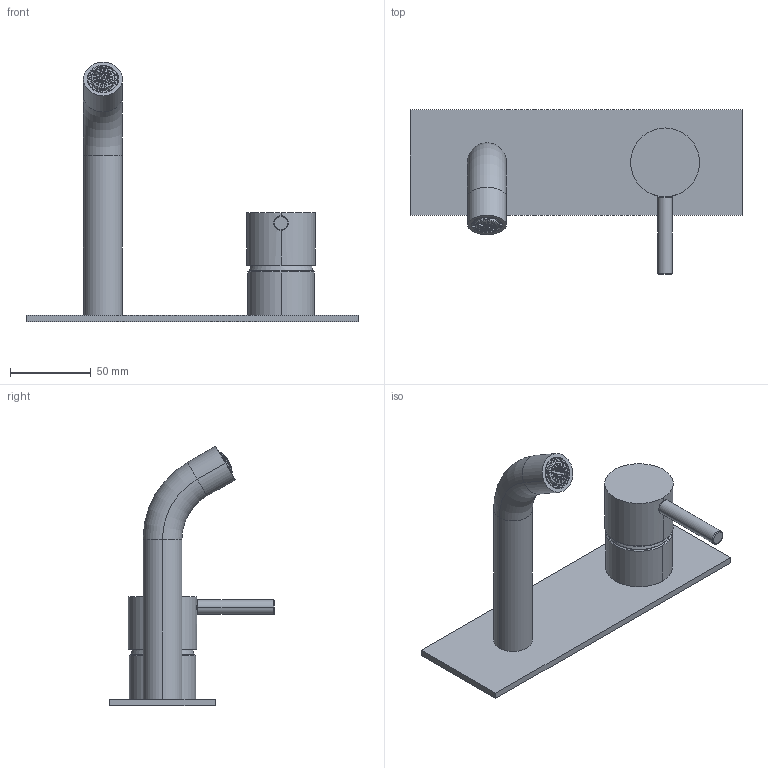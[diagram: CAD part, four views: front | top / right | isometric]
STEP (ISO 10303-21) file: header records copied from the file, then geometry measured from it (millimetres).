
FILE_DESCRIPTION((''),'2;1');
FILE_NAME('50000E010B000000_SW0001','2025-03-13T16:47:09',('cristian.dorz'),(''),'CREO PARAMETRIC BY PTC INC, 2022281','CREO PARAMETRIC BY PTC INC, 2022281','');
FILE_SCHEMA(('AUTOMOTIVE_DESIGN { 1 0 10303 214 1 1 1 1 }'));
Length unit declared in the file: millimetre
Products named in the file (1): 50000E010B000000_SW0001
Bounding box: 205 x 101.5 x 160.39 mm (x, y, z)
Volume: 212746.8 mm3; surface area: 55122.4 mm2
Topology: 1 solids, 2 shells, 311 faces, 811 edges, 534 vertices
Faces by surface type: plane 250, cylinder 33, torus 18, sphere 4, cone 4, bspline 2
Entity records: 11021 total; most frequent: CARTESIAN_POINT 2575, DIRECTION 1761, ORIENTED_EDGE 1622, EDGE_CURVE 811, AXIS2_PLACEMENT_3D 643, VERTEX_POINT 534, VECTOR 472, LINE 472
